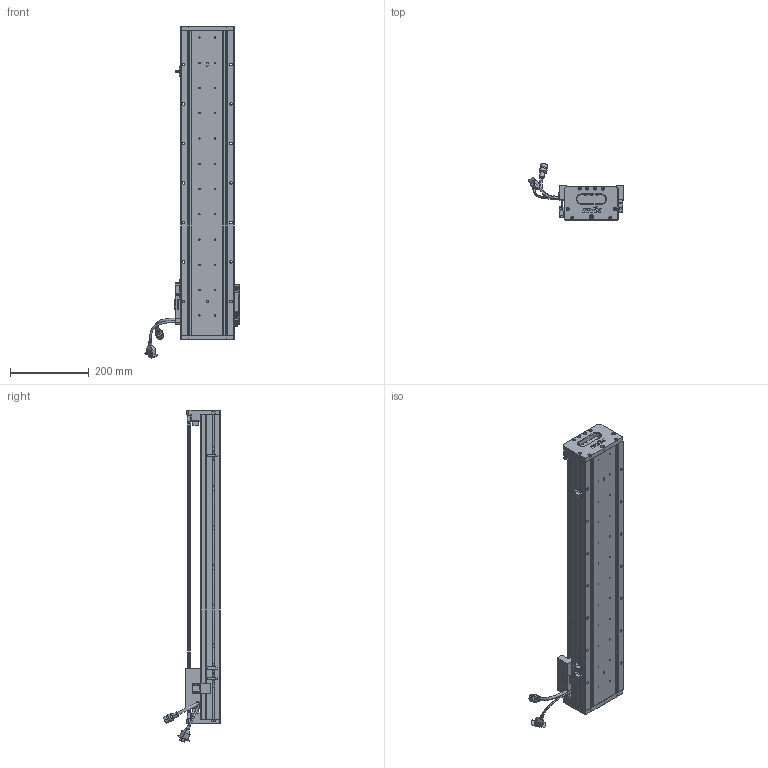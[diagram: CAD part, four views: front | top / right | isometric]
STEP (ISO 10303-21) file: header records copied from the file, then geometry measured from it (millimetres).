
FILE_DESCRIPTION (( 'STEP AP203' ), '1' );
FILE_NAME ('Z1-RY140D-1-L500-B-K.SLDASM_0600.step', '2021-05-17T07:30:46', ( '盈信电脑' ), ( '东莞市道滘镇水果街19号' ), 'SwSTEP 2.0', 'SolidWorks 2016', '' );
FILE_SCHEMA (( 'CONFIG_CONTROL_DESIGN' ));
Length unit declared in the file: millimetre
Products named in the file (36): HARNESS; Z1-RY140-L500詩湍100mm遵_0600; PBU_SHEET; Z1-RY140圉猾敕臏賑輸(21遴); COVER-Part-1; SCALE-Part-1; Z1-RY140D-1-L500-B-K.SLDASM_0600; Z-RY140感应器672光电感应片; SEAL-Part-1; SEAL; HOLDER0; SCREW-M1.6-1; Z-140詩湍傷裔啣; 140蚥薯蝶輸; LABEL; HARNESS-Part-1; LABEL-Part-1; 140-Z-臏賑輸盄裔(21遴); COVER; Z1-RY140-L500直线电机模组底座_0600; SCREW-M1.7; 140雄赽晤鎢ん堤盄; 080黍杅芛假蚾釱21遴; SCREW-M1.6-2; SCREW-M1.6-3; PSLH080_PSLF2; Z-RY140詩湍奻揤裔; SCALE; Z-RY140詩湍狟揤裔; HARNESS-Part-2; SCREW-M1.7-1; SHIELDPLATE; SCALE-Part-2; 覜茼ん672; 榋妏寠巭燃_暯_M2_2; SCREW-M1.6
Assembly tree (41 placements, depth 4):
  Z1-RY140D-1-L500-B-K.SLDASM_0600
    Z1-RY140-L500直线电机模组底座_0600
    Z-RY140感应器672光电感应片
    Z1-RY140圉猾敕臏賑輸(21遴)
    覜茼ん672  x3
    Z1-RY140-L500詩湍100mm遵_0600
    PSLH080_PSLF2
      SCALE
        SCALE-Part-1
        SCALE-Part-2
      HARNESS
        HARNESS-Part-1
        HARNESS-Part-2
      LABEL
        LABEL-Part-1
      COVER
        COVER-Part-1
      SEAL
        SEAL-Part-1
      榋妏寠巭燃_暯_M2_2
      SHIELDPLATE
      SCREW-M1.7
      SCREW-M1.7-1
      PBU_SHEET
      SCREW-M1.6
      SCREW-M1.6-1
      SCREW-M1.6-2
      SCREW-M1.6-3
      HOLDER0
    080黍杅芛假蚾釱21遴
    140-Z-臏賑輸盄裔(21遴)
    Z-140詩湍傷裔啣  x2
    Z-RY140詩湍狟揤裔  x2
    Z-RY140詩湍奻揤裔  x2
    140蚥薯蝶輸  x2
    140雄赽晤鎢ん堤盄
Bounding box: 239.84 x 143.88 x 840.88 mm (x, y, z)
Volume: 2983829.4 mm3; surface area: 800908.8 mm2
Topology: 36 solids, 36 shells, 2664 faces, 6974 edges, 4421 vertices
Faces by surface type: cylinder 1200, plane 1092, cone 250, torus 69, bspline 53
Entity records: 76270 total; most frequent: CARTESIAN_POINT 18747, DIRECTION 11166, ORIENTED_EDGE 11140, EDGE_CURVE 5570, AXIS2_PLACEMENT_3D 4072, VERTEX_POINT 3589, VECTOR 3022, LINE 3022
